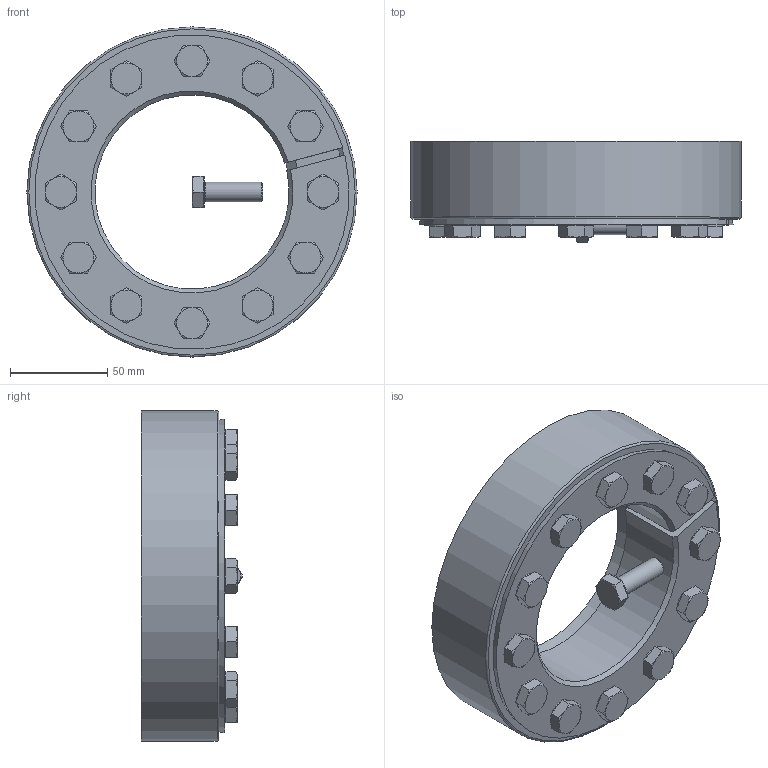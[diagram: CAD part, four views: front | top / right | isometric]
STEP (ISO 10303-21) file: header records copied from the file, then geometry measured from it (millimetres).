
FILE_DESCRIPTION( ( 'Unknown' ), '1' );
FILE_NAME( 'C:/Dokumente und Einstellungen/Sven/Desktop/homepage/cad - homepage/KBS19-1/KBS 19_1 - 100 x 170.stp', 'Unknown', ( 'Unknown' ), ( 'Unknown' ), 'XStep 1.0', 'Unknown', ' ' );
FILE_SCHEMA( ( 'automotive_design' ) );
Length unit declared in the file: millimetre
Products named in the file (3): Assem1; KBS 19_1 - 100 x 170; ISO 4017 - M10 x 30-N
Bounding box: 170 x 52.24 x 170 mm (x, y, z)
Volume: 1220444.7 mm3; surface area: 185252.7 mm2
Topology: 15 solids, 15 shells, 379 faces, 846 edges, 510 vertices
Faces by surface type: plane 213, cone 97, cylinder 54, torus 15
Full cylindrical faces by diameter (mm): 10 x37, 16 x13, 170 x2
Entity records: 1834 total; most frequent: CARTESIAN_POINT 329, DIRECTION 272, ORIENTED_EDGE 214, AXIS2_PLACEMENT_3D 117, EDGE_CURVE 107, EDGE_LOOP 97, VERTEX_POINT 78, FACE_OUTER_BOUND 69
